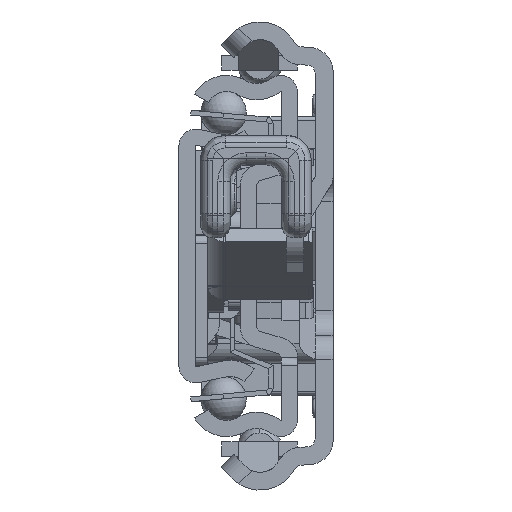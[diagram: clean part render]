
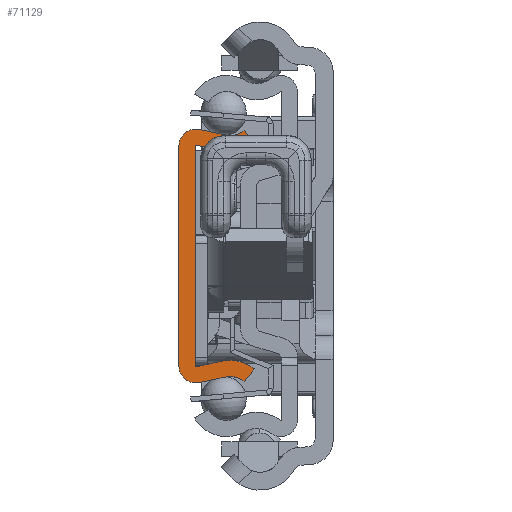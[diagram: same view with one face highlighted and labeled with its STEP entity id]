
A CAD part, left-side view. The second image highlights one B-rep face of the part: STEP entity #71129.
In plain terms, the highlighted planar face has unit normal (-1, 0, 0).
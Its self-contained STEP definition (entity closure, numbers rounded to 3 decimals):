
#65533=CARTESIAN_POINT('',(0.,-6.29,-17.65));
#65534=DIRECTION('',(-1.,0.,0.));
#65535=DIRECTION('',(0.,-0.629,0.778));
#65536=AXIS2_PLACEMENT_3D('',#65533,#65534,#65535);
#65538=DIRECTION('',(0.,0.977,-0.213));
#65539=VECTOR('',#65538,3.218);
#65540=CARTESIAN_POINT('',(0.,-5.692,-14.915));
#65541=LINE('',#65540,#65539);
#65542=CARTESIAN_POINT('',(0.,-2.1,-13.55));
#65543=DIRECTION('',(1.,0.,0.));
#65544=DIRECTION('',(0.,-0.213,-0.977));
#65545=AXIS2_PLACEMENT_3D('',#65542,#65543,#65544);
#65547=DIRECTION('',(0.,0.,1.));
#65548=VECTOR('',#65547,27.1);
#65549=CARTESIAN_POINT('',(0.,0.,-13.55));
#65550=LINE('',#65549,#65548);
#65551=CARTESIAN_POINT('',(0.,-2.1,13.55));
#65552=DIRECTION('',(1.,0.,0.));
#65553=DIRECTION('',(0.,1.,0.));
#65554=AXIS2_PLACEMENT_3D('',#65551,#65552,#65553);
#65556=DIRECTION('',(0.,-0.977,-0.213));
#65557=VECTOR('',#65556,3.218);
#65558=CARTESIAN_POINT('',(0.,-2.548,15.602));
#65559=LINE('',#65558,#65557);
#65560=CARTESIAN_POINT('',(0.,-6.29,17.65));
#65561=DIRECTION('',(-1.,0.,0.));
#65562=DIRECTION('',(0.,0.213,-0.977));
#65563=AXIS2_PLACEMENT_3D('',#65560,#65561,#65562);
#65565=DIRECTION('',(0.,-0.629,-0.778));
#65566=VECTOR('',#65565,2.);
#65567=CARTESIAN_POINT('',(0.,-8.05,15.472));
#65568=LINE('',#65567,#65566);
#65569=CARTESIAN_POINT('',(0.,-6.29,17.65));
#65570=DIRECTION('',(1.,0.,0.));
#65571=DIRECTION('',(0.,-0.629,-0.778));
#65572=AXIS2_PLACEMENT_3D('',#65569,#65570,#65571);
#65574=DIRECTION('',(0.,0.977,0.213));
#65575=VECTOR('',#65574,3.218);
#65576=CARTESIAN_POINT('',(0.,-5.265,12.961));
#65577=LINE('',#65576,#65575);
#65578=CARTESIAN_POINT('',(0.,-2.1,13.55));
#65579=DIRECTION('',(-1.,0.,0.));
#65580=DIRECTION('',(0.,-0.213,0.977));
#65581=AXIS2_PLACEMENT_3D('',#65578,#65579,#65580);
#65583=DIRECTION('',(0.,0.,-1.));
#65584=VECTOR('',#65583,27.1);
#65585=CARTESIAN_POINT('',(0.,-2.,13.55));
#65586=LINE('',#65585,#65584);
#65587=CARTESIAN_POINT('',(0.,-2.1,-13.55));
#65588=DIRECTION('',(-1.,0.,0.));
#65589=DIRECTION('',(0.,1.,0.));
#65590=AXIS2_PLACEMENT_3D('',#65587,#65588,#65589);
#65592=DIRECTION('',(0.,-0.977,0.213));
#65593=VECTOR('',#65592,3.218);
#65594=CARTESIAN_POINT('',(0.,-2.121,-13.648));
#65595=LINE('',#65594,#65593);
#65596=CARTESIAN_POINT('',(0.,-6.29,-17.65));
#65597=DIRECTION('',(1.,0.,0.));
#65598=DIRECTION('',(0.,0.213,0.977));
#65599=AXIS2_PLACEMENT_3D('',#65596,#65597,#65598);
#65601=DIRECTION('',(0.,0.629,-0.778));
#65602=VECTOR('',#65601,2.);
#65603=CARTESIAN_POINT('',(0.,-9.307,-13.917));
#65604=LINE('',#65603,#65602);
#70062=CARTESIAN_POINT('',(0.,-8.05,-15.472));
#70063=CARTESIAN_POINT('',(0.,-5.692,-14.915));
#70064=VERTEX_POINT('',#70062);
#70065=VERTEX_POINT('',#70063);
#70066=CARTESIAN_POINT('',(0.,-2.548,-15.602));
#70067=VERTEX_POINT('',#70066);
#70068=CARTESIAN_POINT('',(0.,0.,-13.55));
#70069=VERTEX_POINT('',#70068);
#70070=CARTESIAN_POINT('',(0.,0.,13.55));
#70071=VERTEX_POINT('',#70070);
#70072=CARTESIAN_POINT('',(0.,-2.548,15.602));
#70073=VERTEX_POINT('',#70072);
#70074=CARTESIAN_POINT('',(0.,-5.692,14.915));
#70075=VERTEX_POINT('',#70074);
#70076=CARTESIAN_POINT('',(0.,-8.05,15.472));
#70077=VERTEX_POINT('',#70076);
#70078=CARTESIAN_POINT('',(0.,-9.307,13.917));
#70079=VERTEX_POINT('',#70078);
#70080=CARTESIAN_POINT('',(0.,-5.265,12.961));
#70081=VERTEX_POINT('',#70080);
#70082=CARTESIAN_POINT('',(0.,-2.121,13.648));
#70083=VERTEX_POINT('',#70082);
#70084=CARTESIAN_POINT('',(0.,-2.,13.55));
#70085=VERTEX_POINT('',#70084);
#70086=CARTESIAN_POINT('',(0.,-2.,-13.55));
#70087=VERTEX_POINT('',#70086);
#70088=CARTESIAN_POINT('',(0.,-2.121,-13.648));
#70089=VERTEX_POINT('',#70088);
#70090=CARTESIAN_POINT('',(0.,-5.265,-12.961));
#70091=VERTEX_POINT('',#70090);
#70092=CARTESIAN_POINT('',(0.,-9.307,-13.917));
#70093=VERTEX_POINT('',#70092);
#71090=CARTESIAN_POINT('',(0.,0.,0.));
#71091=DIRECTION('',(1.,0.,0.));
#71092=DIRECTION('',(0.,-1.,0.));
#71093=AXIS2_PLACEMENT_3D('',#71090,#71091,#71092);
#71094=PLANE('',#71093);
#71096=ORIENTED_EDGE('',*,*,#71095,.T.);
#71098=ORIENTED_EDGE('',*,*,#71097,.T.);
#71100=ORIENTED_EDGE('',*,*,#71099,.T.);
#71102=ORIENTED_EDGE('',*,*,#71101,.T.);
#71104=ORIENTED_EDGE('',*,*,#71103,.T.);
#71106=ORIENTED_EDGE('',*,*,#71105,.T.);
#71108=ORIENTED_EDGE('',*,*,#71107,.T.);
#71110=ORIENTED_EDGE('',*,*,#71109,.T.);
#71112=ORIENTED_EDGE('',*,*,#71111,.T.);
#71114=ORIENTED_EDGE('',*,*,#71113,.T.);
#71116=ORIENTED_EDGE('',*,*,#71115,.T.);
#71118=ORIENTED_EDGE('',*,*,#71117,.T.);
#71120=ORIENTED_EDGE('',*,*,#71119,.T.);
#71122=ORIENTED_EDGE('',*,*,#71121,.T.);
#71124=ORIENTED_EDGE('',*,*,#71123,.T.);
#71126=ORIENTED_EDGE('',*,*,#71125,.T.);
#71127=EDGE_LOOP('',(#71096,#71098,#71100,#71102,#71104,#71106,#71108,#71110,
#71112,#71114,#71116,#71118,#71120,#71122,#71124,#71126));
#71128=FACE_OUTER_BOUND('',#71127,.F.);
#65537=CIRCLE('',#65536,2.8);
#65546=CIRCLE('',#65545,2.1);
#65555=CIRCLE('',#65554,2.1);
#65564=CIRCLE('',#65563,2.8);
#65573=CIRCLE('',#65572,4.8);
#65582=CIRCLE('',#65581,0.1);
#65591=CIRCLE('',#65590,0.1);
#65600=CIRCLE('',#65599,4.8);
#71095=EDGE_CURVE('',#70064,#70065,#65537,.T.);
#71097=EDGE_CURVE('',#70065,#70067,#65541,.T.);
#71099=EDGE_CURVE('',#70067,#70069,#65546,.T.);
#71101=EDGE_CURVE('',#70069,#70071,#65550,.T.);
#71103=EDGE_CURVE('',#70071,#70073,#65555,.T.);
#71105=EDGE_CURVE('',#70073,#70075,#65559,.T.);
#71107=EDGE_CURVE('',#70075,#70077,#65564,.T.);
#71109=EDGE_CURVE('',#70077,#70079,#65568,.T.);
#71111=EDGE_CURVE('',#70079,#70081,#65573,.T.);
#71113=EDGE_CURVE('',#70081,#70083,#65577,.T.);
#71115=EDGE_CURVE('',#70083,#70085,#65582,.T.);
#71117=EDGE_CURVE('',#70085,#70087,#65586,.T.);
#71119=EDGE_CURVE('',#70087,#70089,#65591,.T.);
#71121=EDGE_CURVE('',#70089,#70091,#65595,.T.);
#71123=EDGE_CURVE('',#70091,#70093,#65600,.T.);
#71125=EDGE_CURVE('',#70093,#70064,#65604,.T.);
#71129=ADVANCED_FACE('',(#71128),#71094,.F.);
